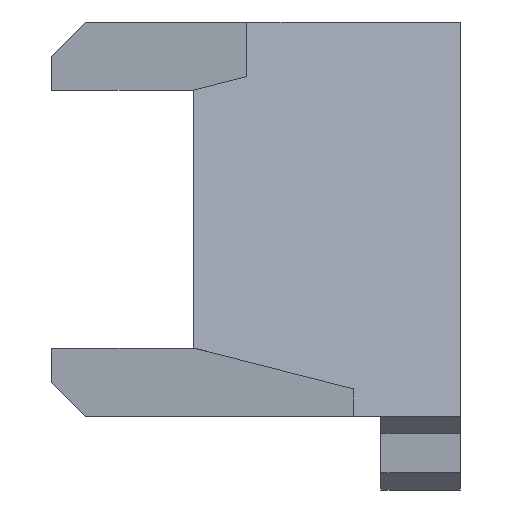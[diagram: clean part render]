
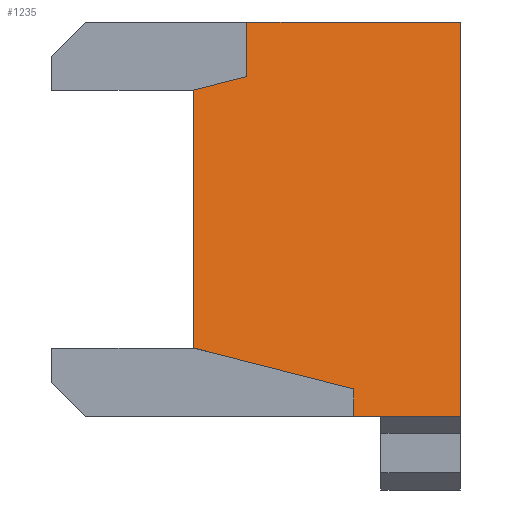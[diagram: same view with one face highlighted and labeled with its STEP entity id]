
A CAD part, left-side view. The second image highlights one B-rep face of the part: STEP entity #1235.
In plain terms, the highlighted planar face has unit normal (-0.92, -0.392, 0).
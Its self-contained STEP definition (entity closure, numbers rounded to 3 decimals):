
#2 = CARTESIAN_POINT ( 'NONE',  ( -5., -24.25, -14.35 ) ) ;
#31 = EDGE_CURVE ( 'NONE', #815, #57, #548, .T. ) ;
#35 = ORIENTED_EDGE ( 'NONE', *, *, #1471, .F. ) ;
#39 = CARTESIAN_POINT ( 'NONE',  ( 0.92, -38.162, 17.35 ) ) ;
#44 = EDGE_CURVE ( 'NONE', #1207, #1673, #962, .T. ) ;
#53 = DIRECTION ( 'NONE',  ( -0.392, 0.92, 0. ) ) ;
#57 = VERTEX_POINT ( 'NONE', #349 ) ;
#62 = DIRECTION ( 'NONE',  ( 0., 0., -1. ) ) ;
#96 = LINE ( 'NONE', #877, #1051 ) ;
#121 = CARTESIAN_POINT ( 'NONE',  ( -8., -17.2, 17.35 ) ) ;
#143 = LINE ( 'NONE', #705, #1745 ) ;
#147 = VECTOR ( 'NONE', #1575, 1000. ) ;
#205 = CARTESIAN_POINT ( 'NONE',  ( -4., -26.6, -17.35 ) ) ;
#327 = VERTEX_POINT ( 'NONE', #376 ) ;
#349 = CARTESIAN_POINT ( 'NONE',  ( -10., -12.5, 11.35 ) ) ;
#373 = CARTESIAN_POINT ( 'NONE',  ( 0., -36., -11.35 ) ) ;
#376 = CARTESIAN_POINT ( 'NONE',  ( 0., -36., 11.35 ) ) ;
#395 = CARTESIAN_POINT ( 'NONE',  ( -8., -17.2, 12.55 ) ) ;
#407 = ORIENTED_EDGE ( 'NONE', *, *, #1832, .T. ) ;
#548 = LINE ( 'NONE', #1452, #657 ) ;
#586 = VERTEX_POINT ( 'NONE', #824 ) ;
#622 = DIRECTION ( 'NONE',  ( 0., 0., 1. ) ) ;
#630 = CARTESIAN_POINT ( 'NONE',  ( -10., -12.5, -11.35 ) ) ;
#657 = VECTOR ( 'NONE', #1001, 1000. ) ;
#698 = CARTESIAN_POINT ( 'NONE',  ( 0., -36., 11.35 ) ) ;
#705 = CARTESIAN_POINT ( 'NONE',  ( 0., -36., 17.35 ) ) ;
#723 = EDGE_CURVE ( 'NONE', #1946, #812, #1100, .T. ) ;
#806 = VECTOR ( 'NONE', #1143, 1000. ) ;
#812 = VERTEX_POINT ( 'NONE', #1649 ) ;
#815 = VERTEX_POINT ( 'NONE', #395 ) ;
#824 = CARTESIAN_POINT ( 'NONE',  ( -10., -12.5, -6.85 ) ) ;
#844 = VERTEX_POINT ( 'NONE', #373 ) ;
#847 = EDGE_CURVE ( 'NONE', #844, #1207, #96, .T. ) ;
#861 = ORIENTED_EDGE ( 'NONE', *, *, #723, .F. ) ;
#877 = CARTESIAN_POINT ( 'NONE',  ( 0., -36., 17.35 ) ) ;
#878 = CARTESIAN_POINT ( 'NONE',  ( -4., -26.6, -14.95 ) ) ;
#900 = LINE ( 'NONE', #1785, #1359 ) ;
#901 = EDGE_CURVE ( 'NONE', #327, #844, #1616, .T. ) ;
#926 = CARTESIAN_POINT ( 'NONE',  ( 0., -36., -17.35 ) ) ;
#933 = EDGE_CURVE ( 'NONE', #969, #586, #984, .T. ) ;
#962 = LINE ( 'NONE', #1469, #1127 ) ;
#969 = VERTEX_POINT ( 'NONE', #630 ) ;
#984 = LINE ( 'NONE', #1251, #147 ) ;
#1001 = DIRECTION ( 'NONE',  ( -0.381, 0.896, -0.229 ) ) ;
#1051 = VECTOR ( 'NONE', #1655, 1000. ) ;
#1083 = ORIENTED_EDGE ( 'NONE', *, *, #44, .F. ) ;
#1100 = LINE ( 'NONE', #39, #806 ) ;
#1115 = DIRECTION ( 'NONE',  ( 0.381, -0.896, -0.229 ) ) ;
#1127 = VECTOR ( 'NONE', #53, 1000. ) ;
#1143 = DIRECTION ( 'NONE',  ( 0.392, -0.92, 0. ) ) ;
#1171 = CARTESIAN_POINT ( 'NONE',  ( 0., -36., -11.35 ) ) ;
#1177 = CARTESIAN_POINT ( 'NONE',  ( 0., -36., -3.783 ) ) ;
#1203 = ORIENTED_EDGE ( 'NONE', *, *, #1907, .T. ) ;
#1207 = VERTEX_POINT ( 'NONE', #926 ) ;
#1230 = DIRECTION ( 'NONE',  ( 0., 0., -1. ) ) ;
#1235 = ADVANCED_FACE ( 'NONE', ( #1539 ), #1379, .T. ) ;
#1251 = CARTESIAN_POINT ( 'NONE',  ( -10., -12.5, -11.35 ) ) ;
#1306 = DIRECTION ( 'NONE',  ( 0., 0., 1. ) ) ;
#1325 = EDGE_LOOP ( 'NONE', ( #1675, #1672, #861, #1203, #1853, #35, #1847, #407, #1553, #1083, #1585 ) ) ;
#1359 = VECTOR ( 'NONE', #1306, 1000. ) ;
#1360 = LINE ( 'NONE', #121, #1538 ) ;
#1379 = PLANE ( 'NONE',  #1483 ) ;
#1391 = CARTESIAN_POINT ( 'NONE',  ( -8., -17.2, 17.35 ) ) ;
#1412 = LINE ( 'NONE', #1560, #1735 ) ;
#1452 = CARTESIAN_POINT ( 'NONE',  ( -5., -24.25, 14.35 ) ) ;
#1469 = CARTESIAN_POINT ( 'NONE',  ( -12.051, -7.681, -17.35 ) ) ;
#1471 = EDGE_CURVE ( 'NONE', #586, #57, #900, .T. ) ;
#1483 = AXIS2_PLACEMENT_3D ( 'NONE', #2019, #1512, #1230 ) ;
#1512 = DIRECTION ( 'NONE',  ( -0.92, -0.392, 0. ) ) ;
#1538 = VECTOR ( 'NONE', #1880, 1000. ) ;
#1539 = FACE_OUTER_BOUND ( 'NONE', #1325, .T. ) ;
#1553 = ORIENTED_EDGE ( 'NONE', *, *, #1955, .F. ) ;
#1560 = CARTESIAN_POINT ( 'NONE',  ( -4., -26.6, -17.35 ) ) ;
#1573 = EDGE_CURVE ( 'NONE', #812, #327, #143, .T. ) ;
#1575 = DIRECTION ( 'NONE',  ( 0., 0., 1. ) ) ;
#1585 = ORIENTED_EDGE ( 'NONE', *, *, #847, .F. ) ;
#1599 = VERTEX_POINT ( 'NONE', #878 ) ;
#1616 = B_SPLINE_CURVE_WITH_KNOTS ( 'NONE', 3,
 ( #698, #1799, #1177, #1171 ),
 .UNSPECIFIED., .F., .F.,
 ( 4, 4 ),
 ( 0., 1. ),
 .UNSPECIFIED. ) ;
#1649 = CARTESIAN_POINT ( 'NONE',  ( 0., -36., 17.35 ) ) ;
#1655 = DIRECTION ( 'NONE',  ( 0., 0., -1. ) ) ;
#1672 = ORIENTED_EDGE ( 'NONE', *, *, #1573, .F. ) ;
#1673 = VERTEX_POINT ( 'NONE', #205 ) ;
#1675 = ORIENTED_EDGE ( 'NONE', *, *, #901, .F. ) ;
#1687 = VECTOR ( 'NONE', #1115, 1000. ) ;
#1735 = VECTOR ( 'NONE', #622, 1000. ) ;
#1745 = VECTOR ( 'NONE', #62, 1000. ) ;
#1785 = CARTESIAN_POINT ( 'NONE',  ( -10., -12.5, -6.85 ) ) ;
#1799 = CARTESIAN_POINT ( 'NONE',  ( 0., -36., 3.783 ) ) ;
#1832 = EDGE_CURVE ( 'NONE', #969, #1599, #1911, .T. ) ;
#1847 = ORIENTED_EDGE ( 'NONE', *, *, #933, .F. ) ;
#1853 = ORIENTED_EDGE ( 'NONE', *, *, #31, .T. ) ;
#1880 = DIRECTION ( 'NONE',  ( 0., 0., -1. ) ) ;
#1907 = EDGE_CURVE ( 'NONE', #1946, #815, #1360, .T. ) ;
#1911 = LINE ( 'NONE', #2, #1687 ) ;
#1946 = VERTEX_POINT ( 'NONE', #1391 ) ;
#1955 = EDGE_CURVE ( 'NONE', #1673, #1599, #1412, .T. ) ;
#2019 = CARTESIAN_POINT ( 'NONE',  ( -10., -12.5, 11.35 ) ) ;
